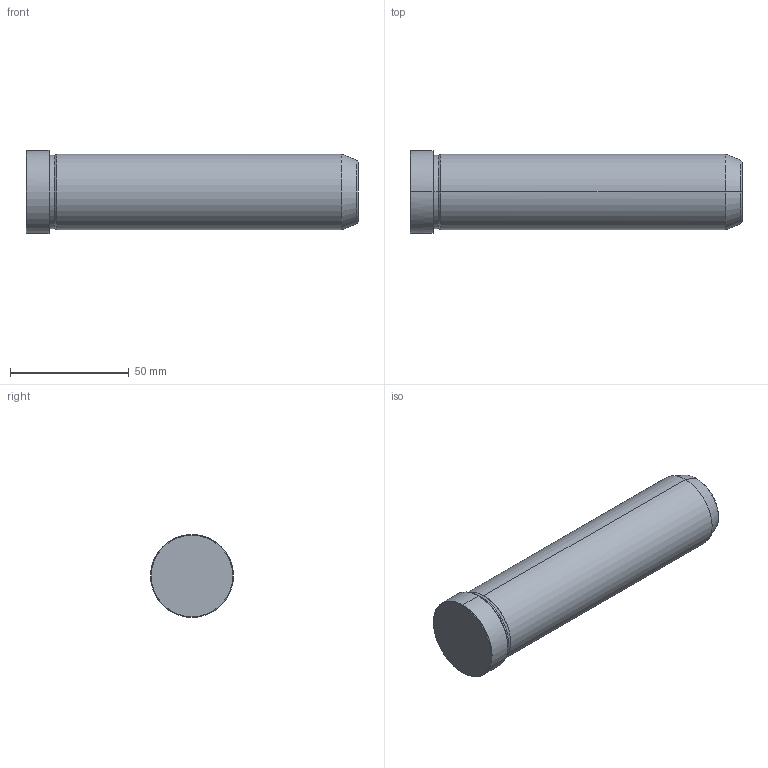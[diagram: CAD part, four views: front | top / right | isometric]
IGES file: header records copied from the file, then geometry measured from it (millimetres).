
Start section: START RECORD GO HERE.
Global section: file name: 549-32X140.igs; native system: DASSAULT SYSTEMES CATIA V5 R20 - www.3ds.com; preprocessor: CATIA Version 5 Release 20 ; author: Utente; organization: NB04-ASUS; date: 20211218.090752; units: millimetre
Bounding box: 140 x 35 x 35 mm (x, y, z)
Surface area: 15824.4 mm2 (no closed solid volume)
Topology: 0 solids, 0 shells, 19 faces, 112 edges, 112 vertices
Faces by surface type: revolution 16, plane 3
